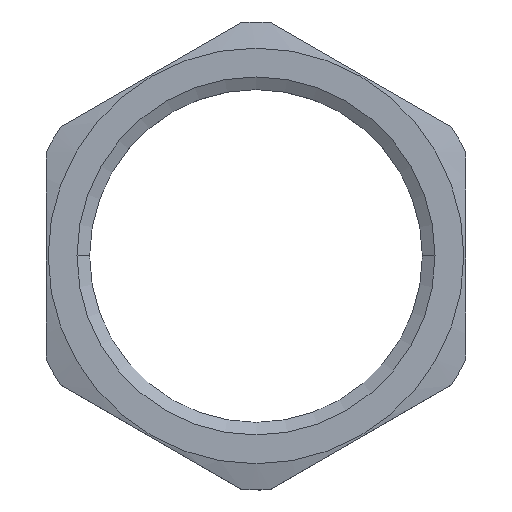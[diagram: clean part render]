
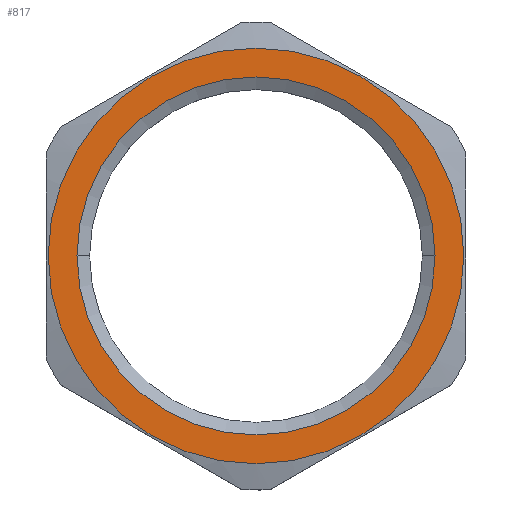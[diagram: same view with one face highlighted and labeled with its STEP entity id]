
A CAD part, top view. The second image highlights one B-rep face of the part: STEP entity #817.
In plain terms, the highlighted planar face has unit normal (0, 0, 1).
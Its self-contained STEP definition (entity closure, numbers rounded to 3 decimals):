
#784 = VERTEX_POINT ( 'NONE', #1680 ) ;
#797 = EDGE_CURVE ( 'NONE', #798, #799, #1535, .T. ) ;
#798 = VERTEX_POINT ( 'NONE', #1636 ) ;
#799 = VERTEX_POINT ( 'NONE', #1635 ) ;
#811 = EDGE_CURVE ( 'NONE', #926, #784, #1613, .T. ) ;
#812 = ORIENTED_EDGE ( 'NONE', *, *, #925, .F. ) ;
#817 = ADVANCED_FACE ( 'NONE', ( #1568, #1698 ), #1573, .F. ) ;
#818 = ORIENTED_EDGE ( 'NONE', *, *, #856, .T. ) ;
#837 = EDGE_LOOP ( 'NONE', ( #818, #857 ) ) ;
#856 = EDGE_CURVE ( 'NONE', #799, #798, #1523, .T. ) ;
#857 = ORIENTED_EDGE ( 'NONE', *, *, #797, .T. ) ;
#858 = EDGE_LOOP ( 'NONE', ( #859, #812 ) ) ;
#859 = ORIENTED_EDGE ( 'NONE', *, *, #811, .F. ) ;
#925 = EDGE_CURVE ( 'NONE', #784, #926, #1880, .T. ) ;
#926 = VERTEX_POINT ( 'NONE', #1875 ) ;
#1519 = DIRECTION ( 'NONE',  ( 1., 0., 0. ) ) ;
#1520 = DIRECTION ( 'NONE',  ( 0., 0., 1. ) ) ;
#1521 = CARTESIAN_POINT ( 'NONE',  ( 0., 0., 0. ) ) ;
#1522 = AXIS2_PLACEMENT_3D ( 'NONE', #1521, #1520, #1519 ) ;
#1523 = CIRCLE ( 'NONE', #1522, 11.9 ) ;
#1529 = CARTESIAN_POINT ( 'NONE',  ( 0., 0., 0. ) ) ;
#1530 = AXIS2_PLACEMENT_3D ( 'NONE', #1529, #1638, #1637 ) ;
#1535 = CIRCLE ( 'NONE', #1530, 11.9 ) ;
#1568 = FACE_OUTER_BOUND ( 'NONE', #837, .T. ) ;
#1573 = PLANE ( 'NONE',  #1697 ) ;
#1609 = DIRECTION ( 'NONE',  ( 1., 0., 0. ) ) ;
#1610 = DIRECTION ( 'NONE',  ( 0., 0., 1. ) ) ;
#1611 = CARTESIAN_POINT ( 'NONE',  ( 0., 0., 0. ) ) ;
#1612 = AXIS2_PLACEMENT_3D ( 'NONE', #1611, #1610, #1609 ) ;
#1613 = CIRCLE ( 'NONE', #1612, 10.25 ) ;
#1635 = CARTESIAN_POINT ( 'NONE',  ( -11.9, 0., 0. ) ) ;
#1636 = CARTESIAN_POINT ( 'NONE',  ( 11.9, 0., 0. ) ) ;
#1637 = DIRECTION ( 'NONE',  ( 1., 0., 0. ) ) ;
#1638 = DIRECTION ( 'NONE',  ( 0., 0., 1. ) ) ;
#1680 = CARTESIAN_POINT ( 'NONE',  ( -10.25, 0., 0. ) ) ;
#1694 = DIRECTION ( 'NONE',  ( -1., 0., 0. ) ) ;
#1695 = DIRECTION ( 'NONE',  ( 0., 0., -1. ) ) ;
#1696 = CARTESIAN_POINT ( 'NONE',  ( 0., 0., 0. ) ) ;
#1697 = AXIS2_PLACEMENT_3D ( 'NONE', #1696, #1695, #1694 ) ;
#1698 = FACE_BOUND ( 'NONE', #858, .T. ) ;
#1875 = CARTESIAN_POINT ( 'NONE',  ( 10.25, 0., 0. ) ) ;
#1876 = DIRECTION ( 'NONE',  ( 1., 0., 0. ) ) ;
#1877 = DIRECTION ( 'NONE',  ( 0., 0., 1. ) ) ;
#1878 = CARTESIAN_POINT ( 'NONE',  ( 0., 0., 0. ) ) ;
#1879 = AXIS2_PLACEMENT_3D ( 'NONE', #1878, #1877, #1876 ) ;
#1880 = CIRCLE ( 'NONE', #1879, 10.25 ) ;
